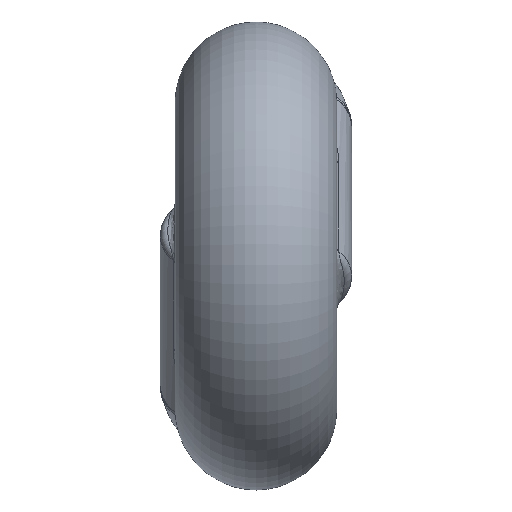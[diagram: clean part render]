
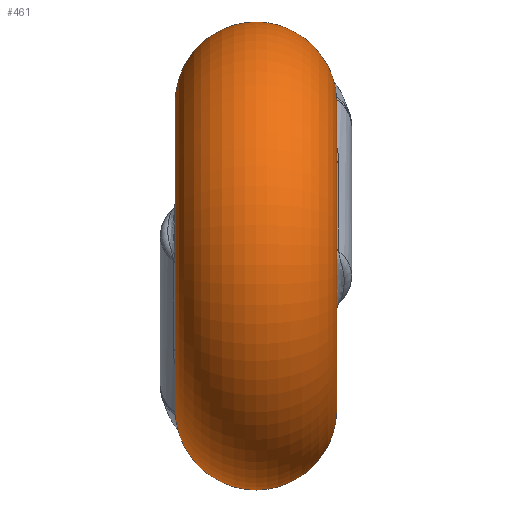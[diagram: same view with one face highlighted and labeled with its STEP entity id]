
A CAD part, left-side view. The second image highlights one B-rep face of the part: STEP entity #461.
In plain terms, the highlighted toroidal (fillet/blend) face has major radius 3.6 mm and minor radius 1.9 mm.
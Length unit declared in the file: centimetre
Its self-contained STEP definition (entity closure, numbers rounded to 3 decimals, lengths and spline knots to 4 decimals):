
#14=TOROIDAL_SURFACE('',#500,0.36,0.19);
#45=B_SPLINE_CURVE_WITH_KNOTS('',3,(#778,#779,#780,#781,#782,#783),
 .UNSPECIFIED.,.F.,.F.,(4,1,1,4),(-0.2838,-0.2027,
-0.1216,0.),.UNSPECIFIED.);
#47=B_SPLINE_CURVE_WITH_KNOTS('',3,(#820,#821,#822,#823,#824),
 .UNSPECIFIED.,.F.,.F.,(4,1,4),(-0.1263,-0.0631,
0.),.UNSPECIFIED.);
#50=B_SPLINE_CURVE_WITH_KNOTS('',3,(#896,#897,#898,#899,#900,#901,#902,
#903,#904,#905,#906),.UNSPECIFIED.,.F.,.F.,(4,1,1,1,1,1,1,1,4),(-0.9736,
-0.8931,-0.8126,-0.7321,-0.6516,
-0.5711,-0.4906,-0.4705,-0.4101),
 .UNSPECIFIED.);
#51=B_SPLINE_CURVE_WITH_KNOTS('',3,(#913,#914,#915,#916,#917,#918),
 .UNSPECIFIED.,.F.,.F.,(4,1,1,4),(-0.2838,-0.2027,
-0.1216,0.),.UNSPECIFIED.);
#52=B_SPLINE_CURVE_WITH_KNOTS('',3,(#920,#921,#922,#923,#924),
 .UNSPECIFIED.,.F.,.F.,(4,1,4),(-0.1263,-0.0631,
0.),.UNSPECIFIED.);
#53=B_SPLINE_CURVE_WITH_KNOTS('',3,(#926,#927,#928,#929,#930,#931,#932,
#933,#934,#935),.UNSPECIFIED.,.F.,.F.,(4,1,1,1,1,1,1,4),(-0.9736,
-0.8931,-0.8126,-0.7321,-0.6516,
-0.5711,-0.4906,-0.4101),.UNSPECIFIED.);
#85=FACE_BOUND('',#130,.T.);
#96=FACE_OUTER_BOUND('',#129,.T.);
#129=EDGE_LOOP('',(#315,#316,#317,#318));
#130=EDGE_LOOP('',(#319,#320,#321,#322));
#165=CIRCLE('',#501,0.36);
#166=CIRCLE('',#502,0.36);
#191=VERTEX_POINT('',#739);
#194=VERTEX_POINT('',#775);
#195=VERTEX_POINT('',#777);
#198=VERTEX_POINT('',#818);
#199=VERTEX_POINT('',#911);
#200=VERTEX_POINT('',#912);
#201=VERTEX_POINT('',#919);
#202=VERTEX_POINT('',#925);
#235=EDGE_CURVE('',#194,#195,#45,.T.);
#239=EDGE_CURVE('',#198,#194,#47,.T.);
#242=EDGE_CURVE('',#191,#198,#50,.T.);
#245=EDGE_CURVE('',#199,#200,#51,.T.);
#246=EDGE_CURVE('',#201,#199,#52,.T.);
#247=EDGE_CURVE('',#202,#201,#53,.T.);
#248=EDGE_CURVE('',#202,#200,#165,.T.);
#249=EDGE_CURVE('',#191,#195,#166,.T.);
#315=ORIENTED_EDGE('',*,*,#245,.F.);
#316=ORIENTED_EDGE('',*,*,#246,.F.);
#317=ORIENTED_EDGE('',*,*,#247,.F.);
#318=ORIENTED_EDGE('',*,*,#248,.T.);
#319=ORIENTED_EDGE('',*,*,#242,.F.);
#320=ORIENTED_EDGE('',*,*,#249,.T.);
#321=ORIENTED_EDGE('',*,*,#235,.F.);
#322=ORIENTED_EDGE('',*,*,#239,.F.);
#461=ADVANCED_FACE('',(#96,#85),#14,.T.);
#500=AXIS2_PLACEMENT_3D('',#910,#567,#568);
#501=AXIS2_PLACEMENT_3D('',#936,#569,#570);
#502=AXIS2_PLACEMENT_3D('',#937,#571,#572);
#567=DIRECTION('center_axis',(0.,1.,0.));
#568=DIRECTION('ref_axis',(1.,0.,0.));
#569=DIRECTION('center_axis',(0.,-1.,0.));
#570=DIRECTION('ref_axis',(-1.,0.,0.));
#571=DIRECTION('center_axis',(0.,1.,0.));
#572=DIRECTION('ref_axis',(-1.,0.,0.));
#739=CARTESIAN_POINT('',(0.3583,-0.125,0.0349));
#775=CARTESIAN_POINT('',(0.3759,0.0154,0.3924));
#777=CARTESIAN_POINT('',(0.2788,-0.125,0.2278));
#778=CARTESIAN_POINT('Ctrl Pts',(0.3759,0.0154,0.3924));
#779=CARTESIAN_POINT('Ctrl Pts',(0.3666,-0.0074,
0.3928));
#780=CARTESIAN_POINT('Ctrl Pts',(0.3512,-0.0532,
0.3761));
#781=CARTESIAN_POINT('Ctrl Pts',(0.3285,-0.1082,0.3122));
#782=CARTESIAN_POINT('Ctrl Pts',(0.3045,-0.125,0.254));
#783=CARTESIAN_POINT('Ctrl Pts',(0.2788,-0.125,0.2278));
#818=CARTESIAN_POINT('',(0.4284,0.1003,0.3396));
#820=CARTESIAN_POINT('Ctrl Pts',(0.4284,0.1003,0.3396));
#821=CARTESIAN_POINT('Ctrl Pts',(0.4184,0.0919,0.3548));
#822=CARTESIAN_POINT('Ctrl Pts',(0.3993,0.0678,0.3814));
#823=CARTESIAN_POINT('Ctrl Pts',(0.3831,0.0331,0.3922));
#824=CARTESIAN_POINT('Ctrl Pts',(0.3759,0.0154,0.3924));
#896=CARTESIAN_POINT('Ctrl Pts',(0.3583,-0.125,0.0349));
#897=CARTESIAN_POINT('Ctrl Pts',(0.3753,-0.125,0.0537));
#898=CARTESIAN_POINT('Ctrl Pts',(0.4158,-0.1187,0.0837));
#899=CARTESIAN_POINT('Ctrl Pts',(0.4772,-0.0815,
0.1039));
#900=CARTESIAN_POINT('Ctrl Pts',(0.5185,-0.0234,
0.125));
#901=CARTESIAN_POINT('Ctrl Pts',(0.5297,0.0435,0.1587));
#902=CARTESIAN_POINT('Ctrl Pts',(0.5082,0.0978,0.21));
#903=CARTESIAN_POINT('Ctrl Pts',(0.4785,0.1151,0.259));
#904=CARTESIAN_POINT('Ctrl Pts',(0.4515,0.1147,0.3033));
#905=CARTESIAN_POINT('Ctrl Pts',(0.438,0.1084,0.325));
#906=CARTESIAN_POINT('Ctrl Pts',(0.4284,0.1003,0.3396));
#910=CARTESIAN_POINT('Origin',(0.,0.065,0.));
#911=CARTESIAN_POINT('',(0.3759,0.1146,-0.3924));
#912=CARTESIAN_POINT('',(0.2788,0.255,-0.2278));
#913=CARTESIAN_POINT('Ctrl Pts',(0.3759,0.1146,-0.3924));
#914=CARTESIAN_POINT('Ctrl Pts',(0.3666,0.1374,-0.3928));
#915=CARTESIAN_POINT('Ctrl Pts',(0.3512,0.1832,-0.3761));
#916=CARTESIAN_POINT('Ctrl Pts',(0.3285,0.2382,-0.3122));
#917=CARTESIAN_POINT('Ctrl Pts',(0.3045,0.255,-0.254));
#918=CARTESIAN_POINT('Ctrl Pts',(0.2788,0.255,-0.2278));
#919=CARTESIAN_POINT('',(0.4284,0.0297,-0.3396));
#920=CARTESIAN_POINT('Ctrl Pts',(0.4284,0.0297,-0.3396));
#921=CARTESIAN_POINT('Ctrl Pts',(0.4184,0.0381,-0.3548));
#922=CARTESIAN_POINT('Ctrl Pts',(0.3993,0.0622,-0.3814));
#923=CARTESIAN_POINT('Ctrl Pts',(0.3831,0.0969,-0.3922));
#924=CARTESIAN_POINT('Ctrl Pts',(0.3759,0.1146,-0.3924));
#925=CARTESIAN_POINT('',(0.3583,0.255,-0.0349));
#926=CARTESIAN_POINT('Ctrl Pts',(0.3583,0.255,-0.0349));
#927=CARTESIAN_POINT('Ctrl Pts',(0.3753,0.255,-0.0537));
#928=CARTESIAN_POINT('Ctrl Pts',(0.4158,0.2487,-0.0837));
#929=CARTESIAN_POINT('Ctrl Pts',(0.4771,0.2115,-0.1039));
#930=CARTESIAN_POINT('Ctrl Pts',(0.5185,0.1534,-0.125));
#931=CARTESIAN_POINT('Ctrl Pts',(0.5297,0.0865,-0.1587));
#932=CARTESIAN_POINT('Ctrl Pts',(0.5082,0.0321,-0.21));
#933=CARTESIAN_POINT('Ctrl Pts',(0.4686,0.0092,
-0.2753));
#934=CARTESIAN_POINT('Ctrl Pts',(0.4412,0.019,-0.3202));
#935=CARTESIAN_POINT('Ctrl Pts',(0.4284,0.0297,-0.3396));
#936=CARTESIAN_POINT('Origin',(0.,0.255,0.));
#937=CARTESIAN_POINT('Origin',(0.,-0.125,0.));
